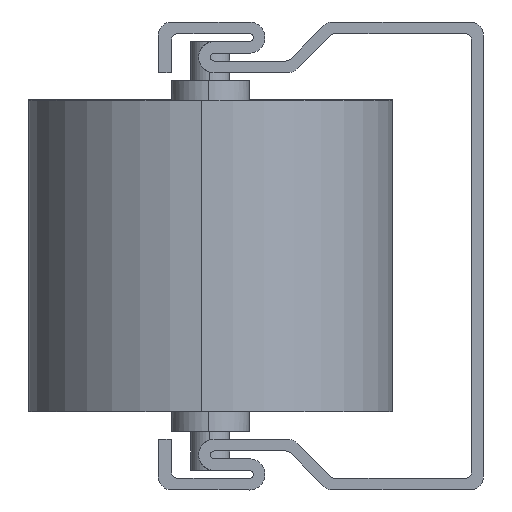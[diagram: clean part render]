
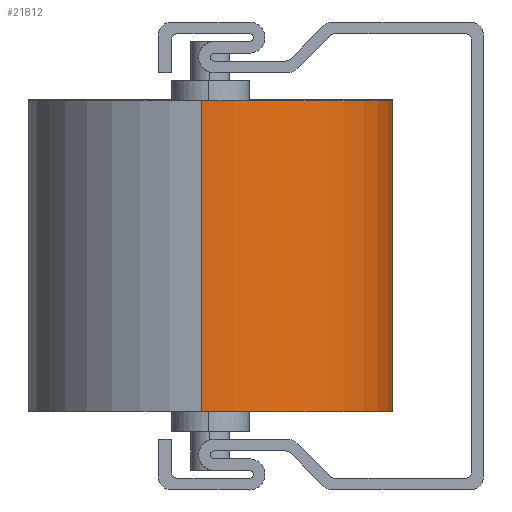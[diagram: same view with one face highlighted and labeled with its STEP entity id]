
A CAD part, left-side view. The second image highlights one B-rep face of the part: STEP entity #21812.
In plain terms, the highlighted cylindrical face has radius 14 mm (diameter 28 mm), a partial arc.
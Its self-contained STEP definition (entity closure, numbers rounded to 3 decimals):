
#1581 = EDGE_CURVE ( 'NONE', #19356, #19386, #4769, .T. ) ;
#1583 = EDGE_CURVE ( 'NONE', #19392, #19385, #4775, .T. ) ;
#1626 = EDGE_CURVE ( 'NONE', #19385, #19386, #4842, .T. ) ;
#1628 = EDGE_CURVE ( 'NONE', #19392, #19356, #4845, .T. ) ;
#2466 = EDGE_LOOP ( 'NONE', ( #3072, #3073, #3074, #3075 ) ) ;
#3072 = ORIENTED_EDGE ( 'NONE', *, *, #1581, .F. ) ;
#3073 = ORIENTED_EDGE ( 'NONE', *, *, #1628, .F. ) ;
#3074 = ORIENTED_EDGE ( 'NONE', *, *, #1583, .T. ) ;
#3075 = ORIENTED_EDGE ( 'NONE', *, *, #1626, .T. ) ;
#3682 = AXIS2_PLACEMENT_3D ( 'NONE', #5557, #4361, #5558 ) ;
#3684 = AXIS2_PLACEMENT_3D ( 'NONE', #5564, #5565, #5566 ) ;
#4361 = DIRECTION ( 'NONE',  ( 0., 0., 1. ) ) ;
#4769 = LINE ( 'NONE', #5383, #4774 ) ;
#4774 = VECTOR ( 'NONE', #5368, 1000. ) ;
#4775 = LINE ( 'NONE', #5389, #4777 ) ;
#4777 = VECTOR ( 'NONE', #5382, 1000. ) ;
#4842 = CIRCLE ( 'NONE', #3682, 14. ) ;
#4845 = CIRCLE ( 'NONE', #3684, 14. ) ;
#5368 = DIRECTION ( 'NONE',  ( 0., 0., -1. ) ) ;
#5382 = DIRECTION ( 'NONE',  ( 0., 0., -1. ) ) ;
#5383 = CARTESIAN_POINT ( 'NONE',  ( -171.016, 20.324, -6. ) ) ;
#5389 = CARTESIAN_POINT ( 'NONE',  ( -198.984, 21.676, -6. ) ) ;
#5557 = CARTESIAN_POINT ( 'NONE',  ( -185., 21., -30. ) ) ;
#5558 = DIRECTION ( 'NONE',  ( 0.999, -0.048, 0. ) ) ;
#5564 = CARTESIAN_POINT ( 'NONE',  ( -185., 21., -6. ) ) ;
#5565 = DIRECTION ( 'NONE',  ( 0., 0., 1. ) ) ;
#5566 = DIRECTION ( 'NONE',  ( 0.999, -0.048, 0. ) ) ;
#9225 = AXIS2_PLACEMENT_3D ( 'NONE', #12463, #12462, #12459 ) ;
#9642 = CARTESIAN_POINT ( 'NONE',  ( -171.016, 20.324, -6. ) ) ;
#9671 = CARTESIAN_POINT ( 'NONE',  ( -198.984, 21.676, -30. ) ) ;
#9672 = CARTESIAN_POINT ( 'NONE',  ( -171.016, 20.324, -30. ) ) ;
#9678 = CARTESIAN_POINT ( 'NONE',  ( -198.984, 21.676, -6. ) ) ;
#11582 = FACE_OUTER_BOUND ( 'NONE', #2466, .T. ) ;
#11586 = CYLINDRICAL_SURFACE ( 'NONE', #9225, 14. ) ;
#12459 = DIRECTION ( 'NONE',  ( -0.999, 0.048, 0. ) ) ;
#12462 = DIRECTION ( 'NONE',  ( 0., 0., -1. ) ) ;
#12463 = CARTESIAN_POINT ( 'NONE',  ( -185., 21., -6. ) ) ;
#19356 = VERTEX_POINT ( 'NONE', #9642 ) ;
#19385 = VERTEX_POINT ( 'NONE', #9671 ) ;
#19386 = VERTEX_POINT ( 'NONE', #9672 ) ;
#19392 = VERTEX_POINT ( 'NONE', #9678 ) ;
#21812 = ADVANCED_FACE ( 'NONE', ( #11582 ), #11586, .T. ) ;
